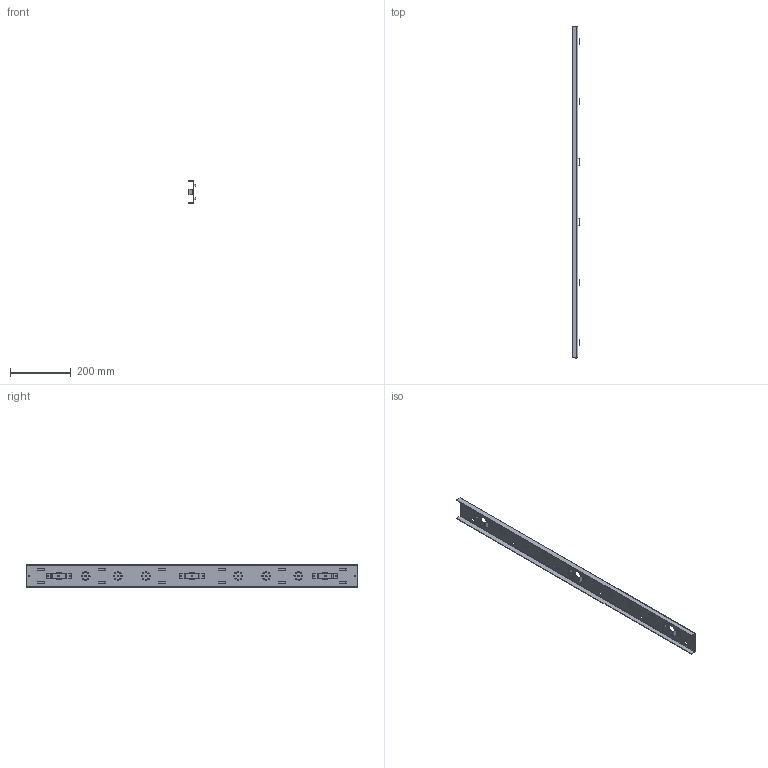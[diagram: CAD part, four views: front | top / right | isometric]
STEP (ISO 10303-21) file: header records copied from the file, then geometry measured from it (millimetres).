
FILE_DESCRIPTION((''),'2;1');
FILE_NAME('D:\Scratch\Ideas\pdp167\PVCMTD12.stp', '2005-11-21T11:59:03',('User'),('SDRC'),'I-DEAS Master Series 9','UNIX', 'Yes');
FILE_SCHEMA(('AUTOMOTIVE_DESIGN { 1 0 10303 214 0 1 1 1 }'));
Length unit declared in the file: inch
Products named in the file (3): assy_1200_vert_tie_down; bkt_mounting_vert_tie_down; 87795416
Assembly tree (4 placements, depth 2):
  assy_1200_vert_tie_down
    bkt_mounting_vert_tie_down  x3
    87795416
Bounding box: 25.83 x 1091.41 x 75.86 mm (x, y, z)
Volume: 222103.8 mm3; surface area: 256657.3 mm2
Topology: 4 solids, 4 shells, 322 faces, 918 edges, 580 vertices
Faces by surface type: bspline 322
Entity records: 10346 total; most frequent: CARTESIAN_POINT 4656, ORIENTED_EDGE 1560, EDGE_CURVE 780, VERTEX_POINT 488, QUASI_UNIFORM_CURVE 476, OVER_RIDING_STYLED_ITEM 456, EDGE_LOOP 432, STYLED_ITEM 338
